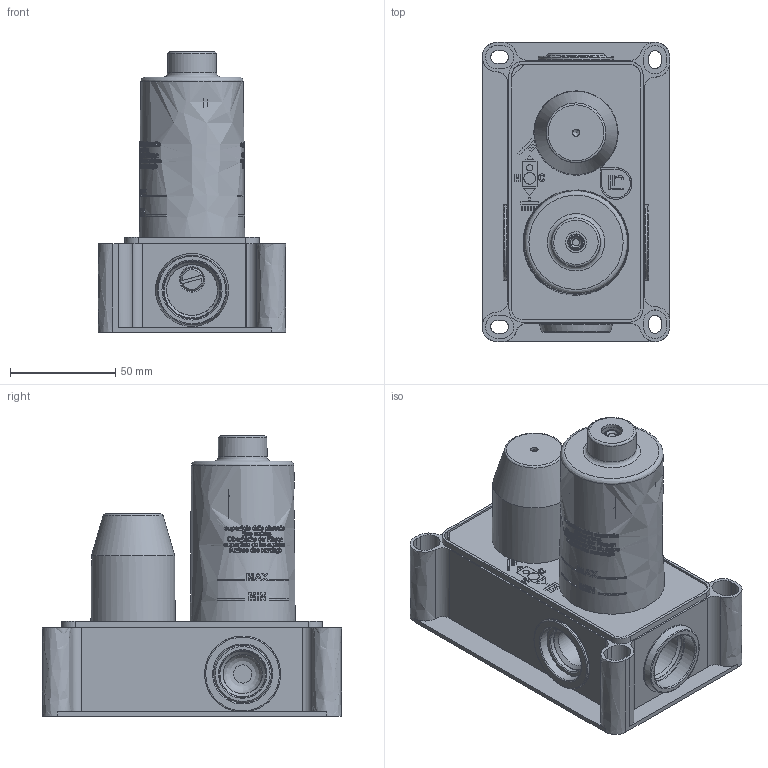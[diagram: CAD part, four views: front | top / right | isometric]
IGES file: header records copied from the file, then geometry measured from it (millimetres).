
Global section: file name: PM0030N; native system: Autodesk Inventor 2017; preprocessor: unknown; author: ROSSETTO; date: 20210802.144007; units: millimetre
Bounding box: 89 x 142 x 133 mm (x, y, z)
Volume: 341594.1 mm3; surface area: 159552.8 mm2
Topology: 1 solids, 1 shells, 4989 faces, 13744 edges, 9129 vertices
Faces by surface type: bspline 4989
